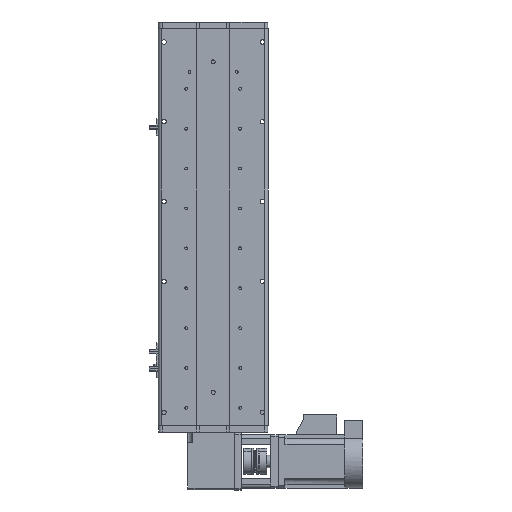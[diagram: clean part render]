
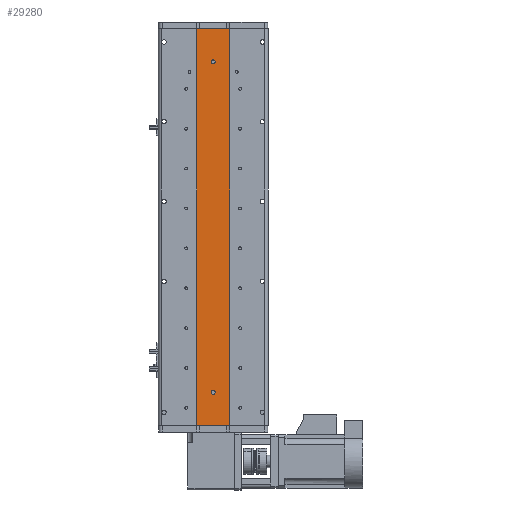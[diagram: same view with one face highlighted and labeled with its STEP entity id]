
A CAD part, front view. The second image highlights one B-rep face of the part: STEP entity #29280.
In plain terms, the highlighted planar face has unit normal (0, -1, 0).
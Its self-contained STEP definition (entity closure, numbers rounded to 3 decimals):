
#654 = DIRECTION ( 'NONE',  ( 0., 0., 1. ) ) ;
#1110 = CARTESIAN_POINT ( 'NONE',  ( 0., 1., -245.5 ) ) ;
#2747 = ORIENTED_EDGE ( 'NONE', *, *, #26950, .T. ) ;
#3029 = CARTESIAN_POINT ( 'NONE',  ( -25., 1., -298.5 ) ) ;
#3302 = AXIS2_PLACEMENT_3D ( 'NONE', #42378, #21512, #654 ) ;
#3357 = EDGE_CURVE ( 'NONE', #32080, #29501, #5202, .T. ) ;
#3583 = CARTESIAN_POINT ( 'NONE',  ( -25., 1., 298.5 ) ) ;
#5100 = VERTEX_POINT ( 'NONE', #3029 ) ;
#5144 = CARTESIAN_POINT ( 'NONE',  ( 0., 1., 245.5 ) ) ;
#5202 = CIRCLE ( 'NONE', #11310, 3. ) ;
#6999 = LINE ( 'NONE', #3583, #16222 ) ;
#7549 = VECTOR ( 'NONE', #32257, 1000. ) ;
#7587 = CARTESIAN_POINT ( 'NONE',  ( -25., 1., 298.5 ) ) ;
#7844 = ORIENTED_EDGE ( 'NONE', *, *, #19993, .T. ) ;
#8311 = DIRECTION ( 'NONE',  ( 0., 1., 0. ) ) ;
#9105 = ORIENTED_EDGE ( 'NONE', *, *, #3357, .T. ) ;
#9824 = DIRECTION ( 'NONE',  ( 0., 1., 0. ) ) ;
#11310 = AXIS2_PLACEMENT_3D ( 'NONE', #19014, #43352, #22501 ) ;
#11781 = VERTEX_POINT ( 'NONE', #7587 ) ;
#13020 = VECTOR ( 'NONE', #21842, 1000. ) ;
#13237 = ORIENTED_EDGE ( 'NONE', *, *, #33422, .T. ) ;
#13287 = CARTESIAN_POINT ( 'NONE',  ( 0., 1., 251.5 ) ) ;
#13470 = CIRCLE ( 'NONE', #42228, 3. ) ;
#15182 = AXIS2_PLACEMENT_3D ( 'NONE', #38271, #17385, #41741 ) ;
#16106 = VECTOR ( 'NONE', #24249, 1000. ) ;
#16208 = EDGE_CURVE ( 'NONE', #29501, #32080, #13470, .T. ) ;
#16222 = VECTOR ( 'NONE', #27949, 1000. ) ;
#16232 = ORIENTED_EDGE ( 'NONE', *, *, #16208, .T. ) ;
#17385 = DIRECTION ( 'NONE',  ( 0., 1., 0. ) ) ;
#17664 = AXIS2_PLACEMENT_3D ( 'NONE', #42979, #8311, #32690 ) ;
#18319 = PLANE ( 'NONE',  #17664 ) ;
#18468 = ORIENTED_EDGE ( 'NONE', *, *, #24805, .F. ) ;
#19014 = CARTESIAN_POINT ( 'NONE',  ( 0., 1., 248.5 ) ) ;
#19993 = EDGE_CURVE ( 'NONE', #31843, #34896, #29632, .T. ) ;
#21289 = FACE_BOUND ( 'NONE', #43826, .T. ) ;
#21512 = DIRECTION ( 'NONE',  ( 0., 1., 0. ) ) ;
#21519 = EDGE_LOOP ( 'NONE', ( #9105, #16232 ) ) ;
#21842 = DIRECTION ( 'NONE',  ( 1., 0., 0. ) ) ;
#21844 = CARTESIAN_POINT ( 'NONE',  ( 25., 1., 298.5 ) ) ;
#22240 = LINE ( 'NONE', #28703, #13020 ) ;
#22348 = FACE_OUTER_BOUND ( 'NONE', #26785, .T. ) ;
#22501 = DIRECTION ( 'NONE',  ( 0., 0., 1. ) ) ;
#24249 = DIRECTION ( 'NONE',  ( 1., 0., 0. ) ) ;
#24326 = ORIENTED_EDGE ( 'NONE', *, *, #32914, .T. ) ;
#24805 = EDGE_CURVE ( 'NONE', #11781, #38520, #22240, .T. ) ;
#25361 = LINE ( 'NONE', #38132, #16106 ) ;
#26040 = LINE ( 'NONE', #21844, #7549 ) ;
#26785 = EDGE_LOOP ( 'NONE', ( #2747, #34790, #18468, #24326 ) ) ;
#26950 = EDGE_CURVE ( 'NONE', #5100, #35083, #25361, .T. ) ;
#27949 = DIRECTION ( 'NONE',  ( 0., 0., -1. ) ) ;
#28703 = CARTESIAN_POINT ( 'NONE',  ( 25., 1., 298.5 ) ) ;
#29280 = ADVANCED_FACE ( 'NONE', ( #21289, #39811, #22348 ), #18319, .F. ) ;
#29501 = VERTEX_POINT ( 'NONE', #13287 ) ;
#29632 = CIRCLE ( 'NONE', #3302, 3. ) ;
#30707 = CARTESIAN_POINT ( 'NONE',  ( 0., 1., 248.5 ) ) ;
#30917 = CARTESIAN_POINT ( 'NONE',  ( 25., 1., 298.5 ) ) ;
#31843 = VERTEX_POINT ( 'NONE', #41885 ) ;
#32080 = VERTEX_POINT ( 'NONE', #5144 ) ;
#32257 = DIRECTION ( 'NONE',  ( 0., 0., -1. ) ) ;
#32690 = DIRECTION ( 'NONE',  ( 0., 0., 1. ) ) ;
#32914 = EDGE_CURVE ( 'NONE', #11781, #5100, #6999, .T. ) ;
#33422 = EDGE_CURVE ( 'NONE', #34896, #31843, #37975, .T. ) ;
#34213 = DIRECTION ( 'NONE',  ( 0., 0., 1. ) ) ;
#34790 = ORIENTED_EDGE ( 'NONE', *, *, #44265, .F. ) ;
#34896 = VERTEX_POINT ( 'NONE', #1110 ) ;
#35083 = VERTEX_POINT ( 'NONE', #43851 ) ;
#37975 = CIRCLE ( 'NONE', #15182, 3. ) ;
#38132 = CARTESIAN_POINT ( 'NONE',  ( 25., 1., -298.5 ) ) ;
#38271 = CARTESIAN_POINT ( 'NONE',  ( 0., 1., -248.5 ) ) ;
#38520 = VERTEX_POINT ( 'NONE', #30917 ) ;
#39811 = FACE_BOUND ( 'NONE', #21519, .T. ) ;
#41741 = DIRECTION ( 'NONE',  ( 0., 0., 1. ) ) ;
#41885 = CARTESIAN_POINT ( 'NONE',  ( 0., 1., -251.5 ) ) ;
#42228 = AXIS2_PLACEMENT_3D ( 'NONE', #30707, #9824, #34213 ) ;
#42378 = CARTESIAN_POINT ( 'NONE',  ( 0., 1., -248.5 ) ) ;
#42979 = CARTESIAN_POINT ( 'NONE',  ( 25., 1., 298.5 ) ) ;
#43352 = DIRECTION ( 'NONE',  ( 0., 1., 0. ) ) ;
#43826 = EDGE_LOOP ( 'NONE', ( #7844, #13237 ) ) ;
#43851 = CARTESIAN_POINT ( 'NONE',  ( 25., 1., -298.5 ) ) ;
#44265 = EDGE_CURVE ( 'NONE', #38520, #35083, #26040, .T. ) ;
